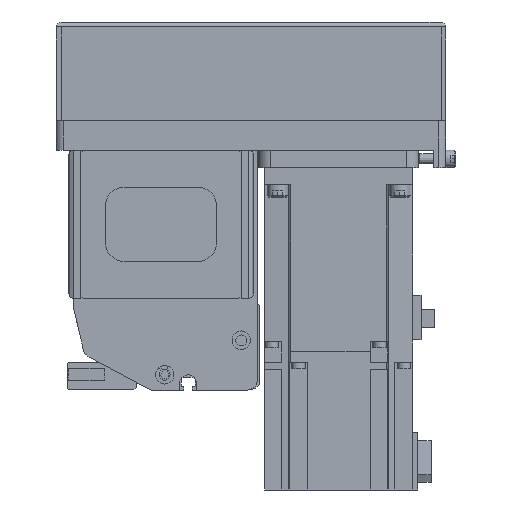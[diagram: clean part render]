
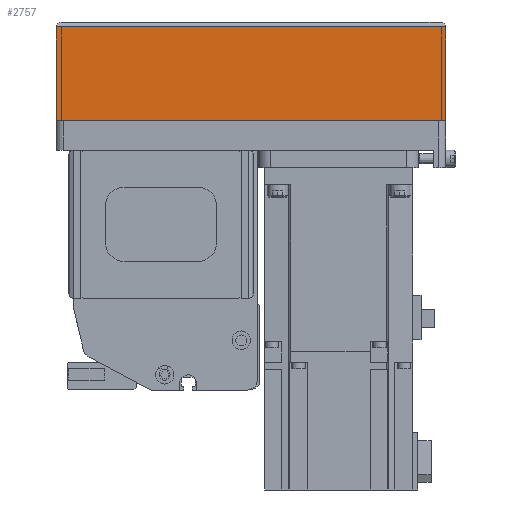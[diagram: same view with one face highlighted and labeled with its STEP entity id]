
A CAD part, left-side view. The second image highlights one B-rep face of the part: STEP entity #2757.
In plain terms, the highlighted planar face has unit normal (-1, 0, 0) as drawn and (0, -1, 0) by its records, which use the part's own axes.
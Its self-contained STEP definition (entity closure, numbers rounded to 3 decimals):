
#2757 = ADVANCED_FACE( '', ( #5988 ), #5989, .T. );
#5988 = FACE_OUTER_BOUND( '', #9605, .T. );
#5989 = PLANE( '', #9606 );
#9605 = EDGE_LOOP( '', ( #17365, #17366, #17367, #17368 ) );
#9606 = AXIS2_PLACEMENT_3D( '', #17369, #17370, #17371 );
#17365 = ORIENTED_EDGE( '', *, *, #22662, .F. );
#17366 = ORIENTED_EDGE( '', *, *, #21568, .F. );
#17367 = ORIENTED_EDGE( '', *, *, #20672, .T. );
#17368 = ORIENTED_EDGE( '', *, *, #22731, .T. );
#17369 = CARTESIAN_POINT( '', ( -158., -39., -12.1 ) );
#17370 = DIRECTION( '', ( 0., -1., 0. ) );
#17371 = DIRECTION( '', ( 0., 0., -1. ) );
#20672 = EDGE_CURVE( '', #24732, #24736, #24738, .T. );
#21568 = EDGE_CURVE( '', #24732, #26227, #26228, .T. );
#22662 = EDGE_CURVE( '', #26227, #27861, #27862, .T. );
#22731 = EDGE_CURVE( '', #24736, #27861, #27957, .T. );
#24732 = VERTEX_POINT( '', #30624 );
#24736 = VERTEX_POINT( '', #30630 );
#24738 = LINE( '', #30633, #30634 );
#26227 = VERTEX_POINT( '', #33187 );
#26228 = LINE( '', #33188, #33189 );
#27861 = VERTEX_POINT( '', #35829 );
#27862 = LINE( '', #35830, #35831 );
#27957 = LINE( '', #35957, #35958 );
#30624 = CARTESIAN_POINT( '', ( -158., -39., -12.1 ) );
#30630 = CARTESIAN_POINT( '', ( -158., -39., -50. ) );
#30633 = CARTESIAN_POINT( '', ( -158., -39., -12.1 ) );
#30634 = VECTOR( '', #38463, 1000. );
#33187 = CARTESIAN_POINT( '', ( 0., -39., -12.1 ) );
#33188 = CARTESIAN_POINT( '', ( -158., -39., -12.1 ) );
#33189 = VECTOR( '', #39580, 1000. );
#35829 = CARTESIAN_POINT( '', ( 0., -39., -50. ) );
#35830 = CARTESIAN_POINT( '', ( 0., -39., -12.1 ) );
#35831 = VECTOR( '', #40939, 1000. );
#35957 = CARTESIAN_POINT( '', ( -158., -39., -50. ) );
#35958 = VECTOR( '', #41019, 1000. );
#38463 = DIRECTION( '', ( 0., 0., -1. ) );
#39580 = DIRECTION( '', ( 1., 0., 0. ) );
#40939 = DIRECTION( '', ( 0., 0., -1. ) );
#41019 = DIRECTION( '', ( 1., 0., 0. ) );
